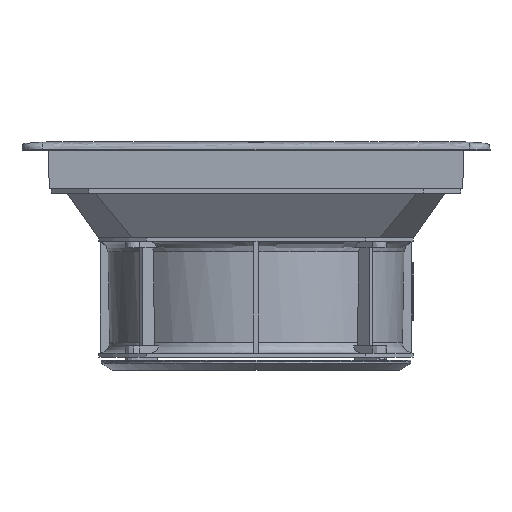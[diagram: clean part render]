
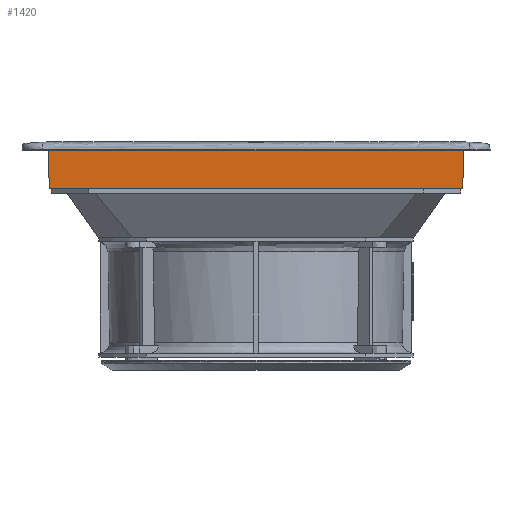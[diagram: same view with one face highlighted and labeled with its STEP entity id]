
A CAD part, front view. The second image highlights one B-rep face of the part: STEP entity #1420.
In plain terms, the highlighted planar face has unit normal (0, -0.999, -0.035).
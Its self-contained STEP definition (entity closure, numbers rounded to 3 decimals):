
#1420=ADVANCED_FACE('',(#2578),#18240,.T.);
#2578=FACE_OUTER_BOUND('',#3755,.T.);
#3755=EDGE_LOOP('',(#5612,#5613,#5614,#5615));
#5612=ORIENTED_EDGE('',*,*,#11087,.T.);
#5613=ORIENTED_EDGE('',*,*,#11074,.T.);
#5614=ORIENTED_EDGE('',*,*,#11088,.T.);
#5615=ORIENTED_EDGE('',*,*,#11086,.T.);
#11074=EDGE_CURVE('',#16594,#16596,#13988,.T.);
#11086=EDGE_CURVE('',#16604,#16601,#14000,.T.);
#11087=EDGE_CURVE('',#16601,#16594,#14001,.T.);
#11088=EDGE_CURVE('',#16596,#16604,#14002,.T.);
#13988=B_SPLINE_CURVE_WITH_KNOTS('',1,(#29092,#29093),.UNSPECIFIED.,.F.,
 .F.,(2,2),(-288.843,0.),.UNSPECIFIED.);
#14000=B_SPLINE_CURVE_WITH_KNOTS('',1,(#29116,#29117),.UNSPECIFIED.,.F.,
 .F.,(2,2),(-286.973,0.),.UNSPECIFIED.);
#14001=B_SPLINE_CURVE_WITH_KNOTS('',1,(#29118,#29119),.UNSPECIFIED.,.F.,
 .F.,(2,2),(0.,26.809),.UNSPECIFIED.);
#14002=B_SPLINE_CURVE_WITH_KNOTS('',1,(#29120,#29121),.UNSPECIFIED.,.F.,
 .F.,(2,2),(0.,26.809),.UNSPECIFIED.);
#16594=VERTEX_POINT('',#25507);
#16596=VERTEX_POINT('',#25509);
#16601=VERTEX_POINT('',#25514);
#16604=VERTEX_POINT('',#25517);
#18240=PLANE('',#19381);
#19381=AXIS2_PLACEMENT_3D('',#25245,#20364,$);
#20364=DIRECTION('',(0.,-0.999,-0.035));
#25245=CARTESIAN_POINT('',(-173.306,-144.515,2.677));
#25507=CARTESIAN_POINT('',(144.421,-144.421,-0.001));
#25509=CARTESIAN_POINT('',(-144.421,-144.421,-0.001));
#25514=CARTESIAN_POINT('',(143.486,-143.486,-26.777));
#25517=CARTESIAN_POINT('',(-143.486,-143.486,-26.777));
#29092=CARTESIAN_POINT('',(144.421,-144.421,-0.001));
#29093=CARTESIAN_POINT('',(-144.421,-144.421,-0.001));
#29116=CARTESIAN_POINT('',(-143.486,-143.486,-26.777));
#29117=CARTESIAN_POINT('',(143.486,-143.486,-26.777));
#29118=CARTESIAN_POINT('',(143.486,-143.486,-26.777));
#29119=CARTESIAN_POINT('',(144.421,-144.421,-0.001));
#29120=CARTESIAN_POINT('',(-144.421,-144.421,-0.001));
#29121=CARTESIAN_POINT('',(-143.486,-143.486,-26.777));
